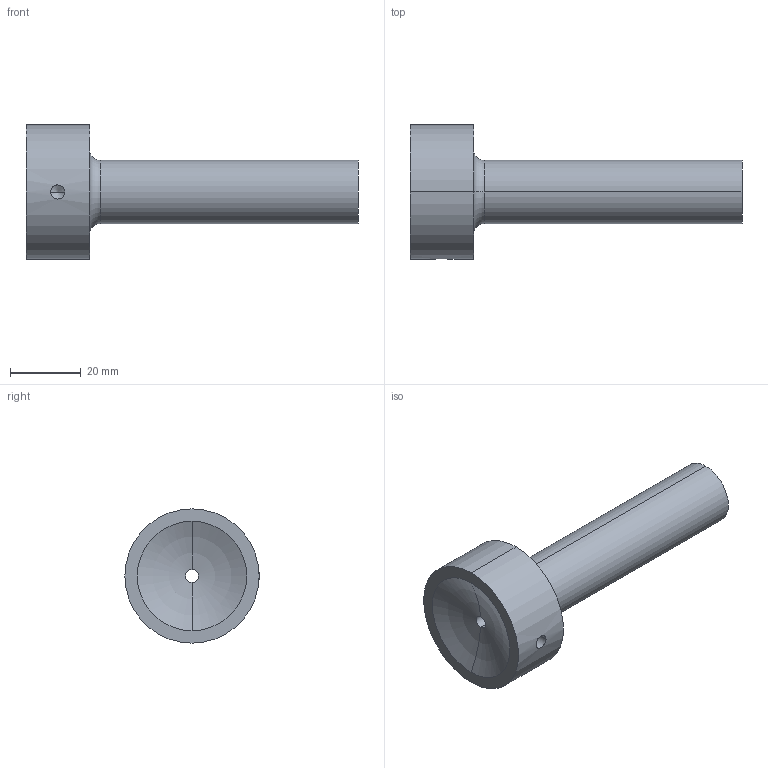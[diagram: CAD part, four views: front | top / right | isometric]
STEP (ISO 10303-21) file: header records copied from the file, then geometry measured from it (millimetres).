
FILE_DESCRIPTION (( 'STEP AP214' ), '1' );
FILE_NAME ('BR51 18x76x3,5x40.STEP', '2019-06-05T15:23:09', ( 'August' ), ( '' ), 'SwSTEP 2.0', 'SolidWorks 2018', '' );
FILE_SCHEMA (( 'AUTOMOTIVE_DESIGN' ));
Length unit declared in the file: millimetre
Products named in the file (1): BR51 18x76x3,5x40
Bounding box: 94 x 38 x 38 mm (x, y, z)
Volume: 35944 mm3; surface area: 10328.7 mm2
Topology: 1 solids, 1 shells, 17 faces, 36 edges, 21 vertices
Faces by surface type: cylinder 6, cone 4, torus 4, plane 3
Entity records: 538 total; most frequent: CARTESIAN_POINT 127, DIRECTION 90, ORIENTED_EDGE 68, AXIS2_PLACEMENT_3D 40, EDGE_CURVE 34, CIRCLE 22, VERTEX_POINT 21, EDGE_LOOP 21
